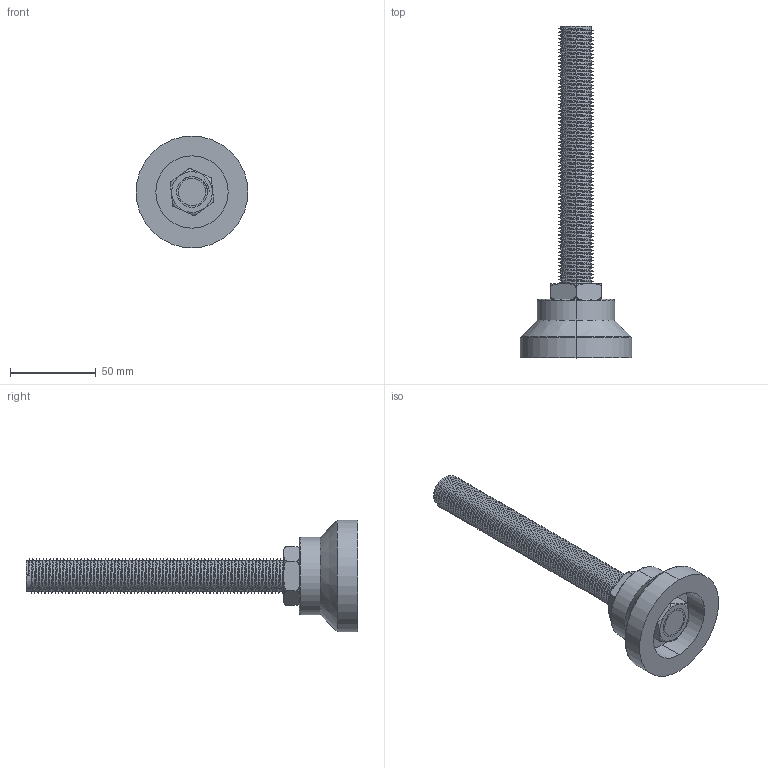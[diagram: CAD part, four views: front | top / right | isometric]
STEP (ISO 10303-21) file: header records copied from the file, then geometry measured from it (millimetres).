
FILE_DESCRIPTION (( 'STEP AP203' ), '1' );
FILE_NAME ('L6016150.STEP', '2018-01-16T02:02:50', ( '' ), ( '' ), 'SwSTEP 2.0', 'SolidWorks 2014', '' );
FILE_SCHEMA (( 'CONFIG_CONTROL_DESIGN' ));
Length unit declared in the file: millimetre
Products named in the file (6): 墊片D20T3; 螺桿M16XL150XP2; L6016150; 套筒H20.; 底座H34; 螺帽M16
Assembly tree (5 placements, depth 2):
  L6016150
    底座H34
    套筒H20.
    墊片D20T3
    螺桿M16XL150XP2
    螺帽M16
Bounding box: 65 x 193 x 65 mm (x, y, z)
Volume: 116572.7 mm3; surface area: 40404 mm2
Topology: 5 solids, 5 shells, 257 faces, 719 edges, 476 vertices
Faces by surface type: cylinder 200, plane 29, torus 22, bspline 4, cone 2
Entity records: 17500 total; most frequent: CARTESIAN_POINT 11355, ORIENTED_EDGE 1438, DIRECTION 913, EDGE_CURVE 719, VERTEX_POINT 476, AXIS2_PLACEMENT_3D 341, EDGE_LOOP 269, FACE_OUTER_BOUND 257
